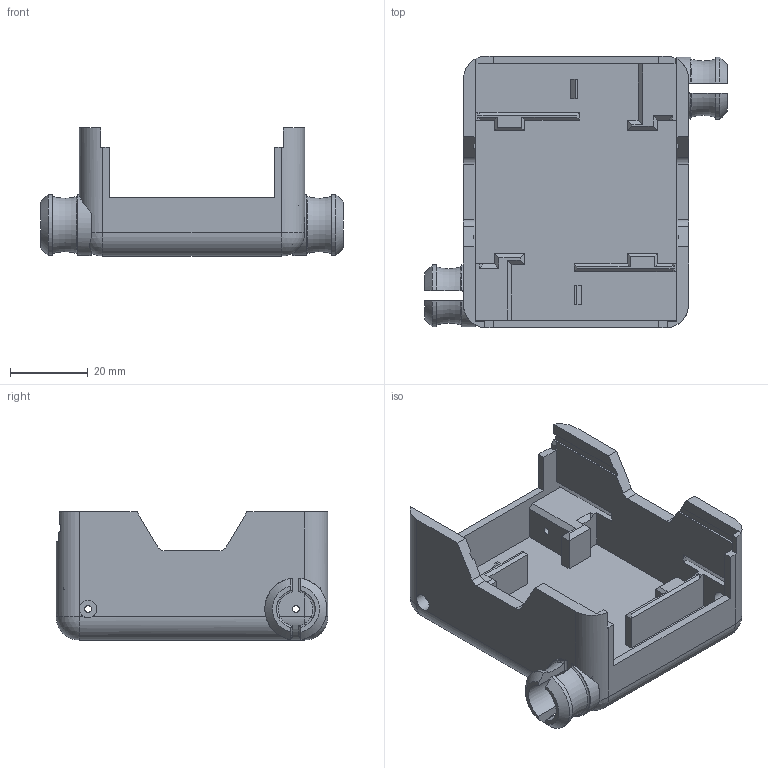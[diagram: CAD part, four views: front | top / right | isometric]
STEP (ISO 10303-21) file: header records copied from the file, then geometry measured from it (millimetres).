
FILE_DESCRIPTION(/* description */ ('Alibre Inc.'),/* implementation_level */ '2;1');
FILE_NAME(/* name */ 'export0',/* time_stamp */ '2018-08-03T14:53:19-04:00',/* author */ (''),/* organization */ (''),/* preprocessor_version */ 'ST-DEVELOPER v17',/* originating_system */ 'Alibre',/* authorisation */ '');
FILE_SCHEMA (('AUTOMOTIVE_DESIGN'));
Length unit declared in the file: millimetre
Bounding box: 78 x 70 x 33 mm (x, y, z)
Volume: 29621.8 mm3; surface area: 22022.1 mm2
Topology: 1 solids, 1 shells, 234 faces, 651 edges, 415 vertices
Faces by surface type: plane 164, cylinder 34, torus 16, bspline 10, sphere 6, cone 4
Full cylindrical faces by diameter (mm): 1.75 x2, 4.5 x2
Entity records: 8498 total; most frequent: CARTESIAN_POINT 3126, ORIENTED_EDGE 1278, DIRECTION 833, EDGE_CURVE 639, VERTEX_POINT 411, VECTOR 408, LINE 408, AXIS2_PLACEMENT_3D 285
